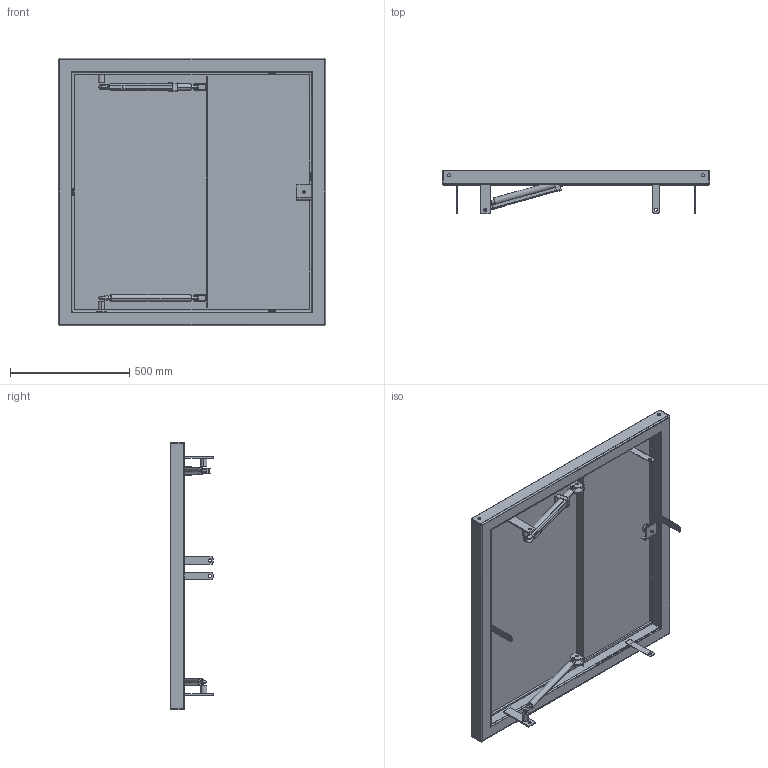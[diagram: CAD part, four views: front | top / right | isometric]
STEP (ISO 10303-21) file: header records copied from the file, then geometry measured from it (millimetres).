
FILE_DESCRIPTION((''),'2;1');
FILE_NAME('51292884-600','2018-11-27T',('slc'),('HUBER SE'),'PRO/ENGINEER BY PARAMETRIC TECHNOLOGY CORPORATION, 2017170','PRO/ENGINEER BY PARAMETRIC TECHNOLOGY CORPORATION, 2017170','');
FILE_SCHEMA(('AUTOMOTIVE_DESIGN { 1 0 10303 214 1 1 1 1 }'));
Length unit declared in the file: millimetre
Products named in the file (1): 51292884-600
Bounding box: 1120 x 180 x 1120 mm (x, y, z)
Volume: 7287327.4 mm3; surface area: 4368564.2 mm2
Topology: 3 solids, 3 shells, 504 faces, 1228 edges, 742 vertices
Faces by surface type: plane 259, cylinder 187, bspline 24, cone 16, torus 10, sphere 8
Entity records: 19599 total; most frequent: CARTESIAN_POINT 6395, DIRECTION 2531, ORIENTED_EDGE 2432, EDGE_CURVE 1216, AXIS2_PLACEMENT_3D 889, VECTOR 750, LINE 750, VERTEX_POINT 742
